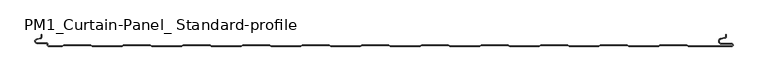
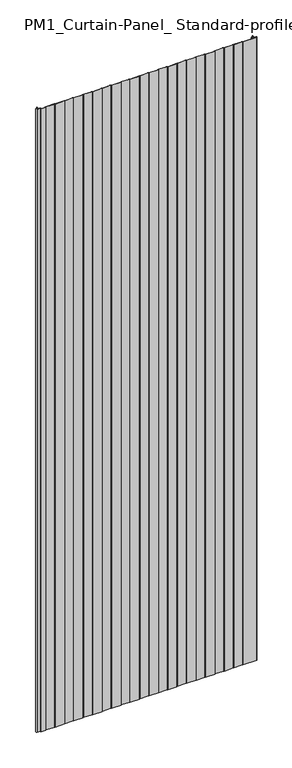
"""IFC4 building model written with IfcOpenShell, lengths in millimetres: plate geometry, PM1_Curtain-Panel_ Standard-profile : ACH_PM1_Acoustic-Sectioning-Panel_120M."""

from ifc_helpers import new_model, si_unit, frame, origin, place, context, project, spatial, polyline, circle_curve, source, transform, mapped, element, save
from ifc_brep_helpers import plane_surface, cylinder_surface, revolved_surface, advanced_brep


def pm1_curtain_panel_standard_profile_edf24548(model_context):
    return source(origin(), model_context, "Body", "AdvancedBrep", [
        advanced_brep(
        [(-562.4, -120.0, 3500.0), (-539.3999999, -120.0, 3500.0), (-536.8019223, -118.5, 3500.0), (-492.0019247, -118.5, 3500.0), (-489.4038471, -120.0, 3500.0), (-439.3999999, -120.0, 3500.0), (-436.8019223, -118.5, 3500.0), (-392.0019247, -118.5, 3500.0), (-389.4038471, -120.0, 3500.0), (-339.3999999, -120.0, 3500.0), (-336.8019223, -118.5, 3500.0), (-292.0019247, -118.5, 3500.0), (-289.4038471, -120.0, 3500.0), (-239.3999999, -120.0, 3500.0), (-236.8019223, -118.5, 3500.0), (-192.0019247, -118.5, 3500.0), (-189.4038471, -120.0, 3500.0), (-139.3999999, -120.0, 3500.0), (-136.8019223, -118.5, 3500.0), (-92.0019247, -118.5, 3500.0), (-89.4038471, -120.0, 3500.0), (-39.3999999, -120.0, 3500.0), (-36.8019223, -118.5, 3500.0), (7.9980753, -118.5, 3500.0), (10.5961529, -120.0, 3500.0), (60.6000001, -120.0, 3500.0), (63.1980777, -118.5, 3500.0), (107.9980753, -118.5, 3500.0), (110.5961529, -120.0, 3500.0), (160.6000001, -120.0, 3500.0), (163.1980777, -118.5, 3500.0), (207.9980753, -118.5, 3500.0), (210.5961529, -120.0, 3500.0), (260.6000001, -120.0, 3500.0), (263.1980777, -118.5, 3500.0), (307.9980753, -118.5, 3500.0), (310.5961529, -120.0, 3500.0), (360.6000001, -120.0, 3500.0), (363.1980777, -118.5, 3500.0), (407.9980753, -118.5, 3500.0), (410.5961529, -120.0, 3500.0), (460.6000001, -120.0, 3500.0), (463.1980777, -118.5, 3500.0), (507.9980753, -118.5, 3500.0), (510.5961529, -120.0, 3500.0), (583.1, -120.0, 3500.0), (585.6, -117.5, 3500.0), (583.1, -115.0, 3500.0), (566.1, -115.0, 3500.0), (565.4054075, -107.060769, 3500.0), (571.8514851, -105.924152, 3500.0), (574.0, -103.363652, 3500.0), (574.0, -100.0, 3500.0), (573.2, -100.0, 3500.0), (573.2, -103.363652, 3500.0), (571.7125666, -105.136306, 3500.0), (565.266489, -106.2729229, 3500.0), (566.1, -115.8, 3500.0), (583.1, -115.8, 3500.0), (583.1, -119.2, 3500.0), (510.8105122, -119.2, 3500.0), (508.2124346, -117.7, 3500.0), (462.9837184, -117.7, 3500.0), (460.3856408, -119.2, 3500.0), (410.8105122, -119.2, 3500.0), (408.2124346, -117.7, 3500.0), (362.9837184, -117.7, 3500.0), (360.3856408, -119.2, 3500.0), (310.8105122, -119.2, 3500.0), (308.2124346, -117.7, 3500.0), (262.9837184, -117.7, 3500.0), (260.3856408, -119.2, 3500.0), (210.8105122, -119.2, 3500.0), (208.2124346, -117.7, 3500.0), (162.9837184, -117.7, 3500.0), (160.3856408, -119.2, 3500.0), (110.8105122, -119.2, 3500.0), (108.2124346, -117.7, 3500.0), (62.9837184, -117.7, 3500.0), (60.3856408, -119.2, 3500.0), (10.8105122, -119.2, 3500.0), (8.2124346, -117.7, 3500.0), (-37.0162816, -117.7, 3500.0), (-39.6143592, -119.2, 3500.0), (-89.1894878, -119.2, 3500.0), (-91.7875654, -117.7, 3500.0), (-137.0162816, -117.7, 3500.0), (-139.6143592, -119.2, 3500.0), (-189.1894878, -119.2, 3500.0), (-191.7875654, -117.7, 3500.0), (-237.0162816, -117.7, 3500.0), (-239.6143592, -119.2, 3500.0), (-289.1894878, -119.2, 3500.0), (-291.7875654, -117.7, 3500.0), (-337.0162816, -117.7, 3500.0), (-339.6143592, -119.2, 3500.0), (-389.1894878, -119.2, 3500.0), (-391.7875654, -117.7, 3500.0), (-437.0162816, -117.7, 3500.0), (-439.6143592, -119.2, 3500.0), (-489.1894878, -119.2, 3500.0), (-491.7875654, -117.7, 3500.0), (-537.0162816, -117.7, 3500.0), (-539.6143592, -119.2, 3500.0), (-562.4, -119.2, 3500.0), (-563.6, -118.0, 3500.0), (-563.6, -116.6, 3500.0), (-566.4, -113.8, 3500.0), (-581.9, -113.8, 3500.0), (-582.529863, -108.2717638, 3500.0), (-576.370137, -106.849679, 3500.0), (-574.2, -104.121443, 3500.0), (-574.2, -100.0, 3500.0), (-575.0, -100.0, 3500.0), (-575.0, -104.121443, 3500.0), (-576.5500978, -106.0701831, 3500.0), (-582.7098239, -107.492268, 3500.0), (-581.9, -114.6, 3500.0), (-566.4, -114.6, 3500.0), (-564.4, -116.6, 3500.0), (-564.4, -118.0, 3500.0), (-562.4, -120.0, 0.0), (-564.4, -118.0, 0.0), (-564.4, -116.6, 0.0), (-566.4, -114.6, 0.0), (-581.9, -114.6, 0.0), (-582.7098239, -107.4922678, 0.0), (-576.5500979, -106.070183, 0.0), (-575.0, -104.121443, 0.0), (-575.0, -100.0, 0.0), (-574.2, -100.0, 0.0), (-574.2, -104.121443, 0.0), (-576.370137, -106.8496792, 0.0), (-582.529863, -108.271764, 0.0), (-581.9, -113.8, 0.0), (-566.4, -113.8, 0.0), (-563.6, -116.6, 0.0), (-563.6, -118.0, 0.0), (-562.4, -119.2, 0.0), (-539.6143592, -119.2, 0.0), (-537.0162816, -117.7, 0.0), (-491.7875654, -117.7, 0.0), (-489.1894878, -119.2, 0.0), (-439.6143592, -119.2, 0.0), (-437.0162816, -117.7, 0.0), (-391.7875654, -117.7, 0.0), (-389.1894878, -119.2, 0.0), (-339.6143592, -119.2, 0.0), (-337.0162816, -117.7, 0.0), (-291.7875654, -117.7, 0.0), (-289.1894878, -119.2, 0.0), (-239.6143592, -119.2, 0.0), (-237.0162816, -117.7, 0.0), (-191.7875654, -117.7, 0.0), (-189.1894878, -119.2, 0.0), (-139.6143592, -119.2, 0.0), (-137.0162816, -117.7, 0.0), (-91.7875654, -117.7, 0.0), (-89.1894878, -119.2, 0.0), (-39.6143592, -119.2, 0.0), (-37.0162816, -117.7, 0.0), (8.2124346, -117.7, 0.0), (10.8105122, -119.2, 0.0), (60.3856408, -119.2, 0.0), (62.9837184, -117.7, 0.0), (108.2124346, -117.7, 0.0), (110.8105122, -119.2, 0.0), (160.3856408, -119.2, 0.0), (162.9837184, -117.7, 0.0), (208.2124346, -117.7, 0.0), (210.8105122, -119.2, 0.0), (260.3856408, -119.2, 0.0), (262.9837184, -117.7, 0.0), (308.2124346, -117.7, 0.0), (310.8105122, -119.2, 0.0), (360.3856408, -119.2, 0.0), (362.9837184, -117.7, 0.0), (408.2124346, -117.7, 0.0), (410.8105122, -119.2, 0.0), (460.3856408, -119.2, 0.0), (462.9837184, -117.7, 0.0), (508.2124346, -117.7, 0.0), (510.8105122, -119.2, 0.0), (583.1, -119.2, 0.0), (583.1, -115.8, 0.0), (566.1, -115.8, 0.0), (565.266489, -106.2729227, 0.0), (571.7125666, -105.1363058, 0.0), (573.2, -103.363652, 0.0), (573.2, -100.0, 0.0), (574.0, -100.0, 0.0), (574.0, -103.363652, 0.0), (571.8514851, -105.9241522, 0.0), (565.4054075, -107.0607691, 0.0), (566.1, -115.0, 0.0), (583.1, -115.0, 0.0), (585.6, -117.5, 0.0), (583.1, -120.0, 0.0), (510.5961529, -120.0, 0.0), (507.9980753, -118.5, 0.0), (463.1980777, -118.5, 0.0), (460.6000001, -120.0, 0.0), (410.5961529, -120.0, 0.0), (407.9980753, -118.5, 0.0), (363.1980777, -118.5, 0.0), (360.6000001, -120.0, 0.0), (310.5961529, -120.0, 0.0), (307.9980753, -118.5, 0.0), (263.1980777, -118.5, 0.0), (260.6000001, -120.0, 0.0), (210.5961529, -120.0, 0.0), (207.9980753, -118.5, 0.0), (163.1980777, -118.5, 0.0), (160.6000001, -120.0, 0.0), (110.5961529, -120.0, 0.0), (107.9980753, -118.5, 0.0), (63.1980777, -118.5, 0.0), (60.6000001, -120.0, 0.0), (10.5961529, -120.0, 0.0), (7.9980753, -118.5, 0.0), (-36.8019223, -118.5, 0.0), (-39.3999999, -120.0, 0.0), (-89.4038471, -120.0, 0.0), (-92.0019247, -118.5, 0.0), (-136.8019223, -118.5, 0.0), (-139.3999999, -120.0, 0.0), (-189.4038471, -120.0, 0.0), (-192.0019247, -118.5, 0.0), (-236.8019223, -118.5, 0.0), (-239.3999999, -120.0, 0.0), (-289.4038471, -120.0, 0.0), (-292.0019247, -118.5, 0.0), (-336.8019223, -118.5, 0.0), (-339.3999999, -120.0, 0.0), (-389.4038471, -120.0, 0.0), (-392.0019247, -118.5, 0.0), (-436.8019223, -118.5, 0.0), (-439.3999999, -120.0, 0.0), (-489.4038471, -120.0, 0.0), (-492.0019247, -118.5, 0.0), (-536.8019223, -118.5, 0.0), (-539.3999999, -120.0, 0.0)],
        [
            (0, 1),
            (1, 2),
            (2, 3),
            (3, 4),
            (4, 5),
            (5, 6),
            (6, 7),
            (7, 8),
            (8, 9),
            (9, 10),
            (10, 11),
            (11, 12),
            (12, 13),
            (13, 14),
            (14, 15),
            (15, 16),
            (16, 17),
            (17, 18),
            (18, 19),
            (19, 20),
            (20, 21),
            (21, 22),
            (22, 23),
            (23, 24),
            (24, 25),
            (25, 26),
            (26, 27),
            (27, 28),
            (28, 29),
            (29, 30),
            (30, 31),
            (31, 32),
            (32, 33),
            (33, 34),
            (34, 35),
            (35, 36),
            (36, 37),
            (37, 38),
            (38, 39),
            (39, 40),
            (40, 41),
            (41, 42),
            (42, 43),
            (43, 44),
            (44, 45),
            (45, 46, circle_curve(frame((583.1, -117.5, 3500.0), z_axis=(0.0, 0.0, 1.0), x_axis=(1.0, 0.0, 0.0)), 2.5)),
            (46, 47, circle_curve(frame((583.1, -117.5, 3500.0), z_axis=(0.0, 0.0, 1.0), x_axis=(1.0, 0.0, 0.0)), 2.5)),
            (47, 48),
            (48, 49, circle_curve(frame((566.1, -111.0, 3500.0), z_axis=(0.0, 0.0, -1.0), x_axis=(1.0, 0.0, 0.0)), 4.0)),
            (49, 50),
            (50, 51, circle_curve(frame((571.4, -103.363652, 3500.0), z_axis=(0.0, 0.0, 1.0), x_axis=(1.0, 0.0, 0.0)), 2.6)),
            (51, 52),
            (52, 53),
            (53, 54),
            (54, 55, circle_curve(frame((571.4, -103.363652, 3500.0), z_axis=(0.0, 0.0, -1.0), x_axis=(1.0, 0.0, 0.0)), 1.8)),
            (55, 56),
            (56, 57, circle_curve(frame((566.1, -111.0, 3500.0), z_axis=(0.0, 0.0, 1.0), x_axis=(1.0, 0.0, 0.0)), 4.8)),
            (57, 58),
            (58, 59, circle_curve(frame((583.1, -117.5, 3500.0), z_axis=(0.0, 0.0, -1.0), x_axis=(1.0, 0.0, 0.0)), 1.7)),
            (59, 60),
            (60, 61),
            (61, 62),
            (62, 63),
            (63, 64),
            (64, 65),
            (65, 66),
            (66, 67),
            (67, 68),
            (68, 69),
            (69, 70),
            (70, 71),
            (71, 72),
            (72, 73),
            (73, 74),
            (74, 75),
            (75, 76),
            (76, 77),
            (77, 78),
            (78, 79),
            (79, 80),
            (80, 81),
            (81, 82),
            (82, 83),
            (83, 84),
            (84, 85),
            (85, 86),
            (86, 87),
            (87, 88),
            (88, 89),
            (89, 90),
            (90, 91),
            (91, 92),
            (92, 93),
            (93, 94),
            (94, 95),
            (95, 96),
            (96, 97),
            (97, 98),
            (98, 99),
            (99, 100),
            (100, 101),
            (101, 102),
            (102, 103),
            (103, 104),
            (104, 105, circle_curve(frame((-562.4, -118.0, 3500.0), z_axis=(0.0, 0.0, -1.0), x_axis=(1.0, 0.0, 0.0)), 1.2)),
            (105, 106),
            (106, 107, circle_curve(frame((-566.4, -116.6, 3500.0), z_axis=(0.0, 0.0, 1.0), x_axis=(1.0, 0.0, 0.0)), 2.8)),
            (107, 108),
            (108, 109, circle_curve(frame((-581.9, -111.0, 3500.0), z_axis=(0.0, 0.0, -1.0), x_axis=(1.0, 0.0, 0.0)), 2.8)),
            (109, 110),
            (110, 111, circle_curve(frame((-577.0, -104.121443, 3500.0), z_axis=(0.0, 0.0, 1.0), x_axis=(1.0, 0.0, 0.0)), 2.8)),
            (111, 112),
            (112, 113),
            (113, 114),
            (114, 115, circle_curve(frame((-577.0, -104.121443, 3500.0), z_axis=(0.0, 0.0, -1.0), x_axis=(1.0, 0.0, 0.0)), 2.0)),
            (115, 116),
            (116, 117, circle_curve(frame((-581.9, -111.0, 3500.0), z_axis=(0.0, 0.0, 1.0), x_axis=(1.0, 0.0, 0.0)), 3.6)),
            (117, 118),
            (118, 119, circle_curve(frame((-566.4, -116.6, 3500.0), z_axis=(0.0, 0.0, -1.0), x_axis=(1.0, 0.0, 0.0)), 2.0)),
            (119, 120),
            (120, 0, circle_curve(frame((-562.4, -118.0, 3500.0), z_axis=(0.0, 0.0, 1.0), x_axis=(1.0, 0.0, 0.0)), 2.0)),
            (121, 122, circle_curve(frame((-562.4, -118.0, 0.0), z_axis=(0.0, 0.0, -1.0), x_axis=(1.0, 0.0, 0.0)), 2.0)),
            (122, 123),
            (123, 124, circle_curve(frame((-566.4, -116.6, 0.0), z_axis=(0.0, 0.0, 1.0), x_axis=(1.0, 0.0, 0.0)), 2.0)),
            (124, 125),
            (125, 126, circle_curve(frame((-581.9, -111.0, 0.0), z_axis=(0.0, 0.0, -1.0), x_axis=(1.0, 0.0, 0.0)), 3.6)),
            (126, 127),
            (127, 128, circle_curve(frame((-577.0, -104.121443, 0.0), z_axis=(0.0, 0.0, 1.0), x_axis=(1.0, 0.0, 0.0)), 2.0)),
            (128, 129),
            (129, 130),
            (130, 131),
            (131, 132, circle_curve(frame((-577.0, -104.121443, 0.0), z_axis=(0.0, 0.0, -1.0), x_axis=(1.0, 0.0, 0.0)), 2.8)),
            (132, 133),
            (133, 134, circle_curve(frame((-581.9, -111.0, 0.0), z_axis=(0.0, 0.0, 1.0), x_axis=(1.0, 0.0, 0.0)), 2.8)),
            (134, 135),
            (135, 136, circle_curve(frame((-566.4, -116.6, 0.0), z_axis=(0.0, 0.0, -1.0), x_axis=(1.0, 0.0, 0.0)), 2.8)),
            (136, 137),
            (137, 138, circle_curve(frame((-562.4, -118.0, 0.0), z_axis=(0.0, 0.0, 1.0), x_axis=(1.0, 0.0, 0.0)), 1.2)),
            (138, 139),
            (139, 140),
            (140, 141),
            (141, 142),
            (142, 143),
            (143, 144),
            (144, 145),
            (145, 146),
            (146, 147),
            (147, 148),
            (148, 149),
            (149, 150),
            (150, 151),
            (151, 152),
            (152, 153),
            (153, 154),
            (154, 155),
            (155, 156),
            (156, 157),
            (157, 158),
            (158, 159),
            (159, 160),
            (160, 161),
            (161, 162),
            (162, 163),
            (163, 164),
            (164, 165),
            (165, 166),
            (166, 167),
            (167, 168),
            (168, 169),
            (169, 170),
            (170, 171),
            (171, 172),
            (172, 173),
            (173, 174),
            (174, 175),
            (175, 176),
            (176, 177),
            (177, 178),
            (178, 179),
            (179, 180),
            (180, 181),
            (181, 182),
            (182, 183),
            (183, 184, circle_curve(frame((583.1, -117.5, 0.0), z_axis=(0.0, 0.0, 1.0), x_axis=(1.0, 0.0, 0.0)), 1.7)),
            (184, 185),
            (185, 186, circle_curve(frame((566.1, -111.0, 0.0), z_axis=(0.0, 0.0, -1.0), x_axis=(1.0, 0.0, 0.0)), 4.8)),
            (186, 187),
            (187, 188, circle_curve(frame((571.4, -103.363652, 0.0), z_axis=(0.0, 0.0, 1.0), x_axis=(1.0, 0.0, 0.0)), 1.8)),
            (188, 189),
            (189, 190),
            (190, 191),
            (191, 192, circle_curve(frame((571.4, -103.363652, 0.0), z_axis=(0.0, 0.0, -1.0), x_axis=(1.0, 0.0, 0.0)), 2.6)),
            (192, 193),
            (193, 194, circle_curve(frame((566.1, -111.0, 0.0), z_axis=(0.0, 0.0, 1.0), x_axis=(1.0, 0.0, 0.0)), 4.0)),
            (194, 195),
            (195, 196, circle_curve(frame((583.1, -117.5, 0.0), z_axis=(0.0, 0.0, -1.0), x_axis=(1.0, 0.0, 0.0)), 2.5)),
            (196, 197, circle_curve(frame((583.1, -117.5, 0.0), z_axis=(0.0, 0.0, -1.0), x_axis=(1.0, 0.0, 0.0)), 2.5)),
            (197, 198),
            (198, 199),
            (199, 200),
            (200, 201),
            (201, 202),
            (202, 203),
            (203, 204),
            (204, 205),
            (205, 206),
            (206, 207),
            (207, 208),
            (208, 209),
            (209, 210),
            (210, 211),
            (211, 212),
            (212, 213),
            (213, 214),
            (214, 215),
            (215, 216),
            (216, 217),
            (217, 218),
            (218, 219),
            (219, 220),
            (220, 221),
            (221, 222),
            (222, 223),
            (223, 224),
            (224, 225),
            (225, 226),
            (226, 227),
            (227, 228),
            (228, 229),
            (229, 230),
            (230, 231),
            (231, 232),
            (232, 233),
            (233, 234),
            (234, 235),
            (235, 236),
            (236, 237),
            (237, 238),
            (238, 239),
            (239, 240),
            (240, 241),
            (241, 121),
            (0, 121),
            (241, 1),
            (240, 2),
            (239, 3),
            (238, 4),
            (237, 5),
            (236, 6),
            (235, 7),
            (234, 8),
            (233, 9),
            (232, 10),
            (231, 11),
            (230, 12),
            (229, 13),
            (228, 14),
            (227, 15),
            (226, 16),
            (225, 17),
            (224, 18),
            (223, 19),
            (222, 20),
            (221, 21),
            (220, 22),
            (219, 23),
            (218, 24),
            (217, 25),
            (216, 26),
            (215, 27),
            (214, 28),
            (213, 29),
            (212, 30),
            (211, 31),
            (210, 32),
            (209, 33),
            (208, 34),
            (207, 35),
            (206, 36),
            (205, 37),
            (204, 38),
            (203, 39),
            (202, 40),
            (201, 41),
            (200, 42),
            (199, 43),
            (198, 44),
            (197, 45),
            (195, 47),
            (194, 48),
            (193, 49),
            (192, 50),
            (191, 51),
            (190, 52),
            (189, 53),
            (188, 54),
            (187, 55),
            (186, 56),
            (185, 57),
            (184, 58),
            (183, 59),
            (182, 60),
            (181, 61),
            (180, 62),
            (179, 63),
            (178, 64),
            (177, 65),
            (176, 66),
            (175, 67),
            (174, 68),
            (173, 69),
            (172, 70),
            (171, 71),
            (170, 72),
            (169, 73),
            (168, 74),
            (167, 75),
            (166, 76),
            (165, 77),
            (164, 78),
            (163, 79),
            (162, 80),
            (161, 81),
            (160, 82),
            (159, 83),
            (158, 84),
            (157, 85),
            (156, 86),
            (155, 87),
            (154, 88),
            (153, 89),
            (152, 90),
            (151, 91),
            (150, 92),
            (149, 93),
            (148, 94),
            (147, 95),
            (146, 96),
            (145, 97),
            (144, 98),
            (143, 99),
            (142, 100),
            (141, 101),
            (140, 102),
            (139, 103),
            (138, 104),
            (137, 105),
            (136, 106),
            (135, 107),
            (134, 108),
            (133, 109),
            (132, 110),
            (131, 111),
            (130, 112),
            (129, 113),
            (128, 114),
            (127, 115),
            (126, 116),
            (125, 117),
            (124, 118),
            (123, 119),
            (122, 120),
        ],
        [
            plane_surface(frame((-575.0, -120.0, 3500.0), z_axis=(0.0, 0.0, 1.0), x_axis=(0.0, 1.0, 0.0))),
            plane_surface(frame((-575.0, -120.0, 0.0), z_axis=(0.0, 0.0, -1.0), x_axis=(0.0, 1.0, 0.0))),
            plane_surface(frame((-562.4, -120.0, 3500.0), z_axis=(0.0, -1.0, 0.0), x_axis=(0.0, 0.0, -1.0))),
            plane_surface(frame((-539.3999999, -120.0, 3500.0), z_axis=(0.49999979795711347, -0.8660255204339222, 0.0), x_axis=(0.0, 0.0, -1.0))),
            plane_surface(frame((-536.8019223, -118.5, 3500.0), z_axis=(0.0, -1.0, 0.0), x_axis=(0.0, 0.0, -1.0))),
            plane_surface(frame((-492.0019247, -118.5, 3500.0), z_axis=(-0.49999979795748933, -0.8660255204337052, 0.0), x_axis=(0.0, 0.0, -1.0))),
            plane_surface(frame((-489.4038471, -120.0, 3500.0), z_axis=(0.0, -1.0, 0.0), x_axis=(0.0, 0.0, -1.0))),
            plane_surface(frame((-439.3999999, -120.0, 3500.0), z_axis=(0.49999979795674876, -0.8660255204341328, 0.0), x_axis=(0.0, 0.0, -1.0))),
            plane_surface(frame((-436.8019223, -118.5, 3500.0), z_axis=(0.0, -1.0, 0.0), x_axis=(0.0, 0.0, -1.0))),
            plane_surface(frame((-392.0019247, -118.5, 3500.0), z_axis=(-0.4999997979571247, -0.8660255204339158, 0.0), x_axis=(0.0, 0.0, -1.0))),
            plane_surface(frame((-389.4038471, -120.0, 3500.0), z_axis=(0.0, -1.0, 0.0), x_axis=(0.0, 0.0, -1.0))),
            plane_surface(frame((-339.3999999, -120.0, 3500.0), z_axis=(0.49999979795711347, -0.8660255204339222, 0.0), x_axis=(0.0, 0.0, -1.0))),
            plane_surface(frame((-336.8019223, -118.5, 3500.0), z_axis=(0.0, -1.0, 0.0), x_axis=(0.0, 0.0, -1.0))),
            plane_surface(frame((-292.0019247, -118.5, 3500.0), z_axis=(-0.4999997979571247, -0.8660255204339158, 0.0), x_axis=(0.0, 0.0, -1.0))),
            plane_surface(frame((-289.4038471, -120.0, 3500.0), z_axis=(0.0, -1.0, 0.0), x_axis=(0.0, 0.0, -1.0))),
            plane_surface(frame((-239.3999999, -120.0, 3500.0), z_axis=(0.49999979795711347, -0.8660255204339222, 0.0), x_axis=(0.0, 0.0, -1.0))),
            plane_surface(frame((-236.8019223, -118.5, 3500.0), z_axis=(0.0, -1.0, 0.0), x_axis=(0.0, 0.0, -1.0))),
            plane_surface(frame((-192.0019247, -118.5, 3500.0), z_axis=(-0.49999979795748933, -0.8660255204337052, 0.0), x_axis=(0.0, 0.0, -1.0))),
            plane_surface(frame((-189.4038471, -120.0, 3500.0), z_axis=(0.0, -1.0, 0.0), x_axis=(0.0, 0.0, -1.0))),
            plane_surface(frame((-139.3999999, -120.0, 3500.0), z_axis=(0.49999979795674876, -0.8660255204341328, 0.0), x_axis=(0.0, 0.0, -1.0))),
            plane_surface(frame((-136.8019223, -118.5, 3500.0), z_axis=(0.0, -1.0, 0.0), x_axis=(0.0, 0.0, -1.0))),
            plane_surface(frame((-92.0019247, -118.5, 3500.0), z_axis=(-0.4999997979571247, -0.8660255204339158, 0.0), x_axis=(0.0, 0.0, -1.0))),
            plane_surface(frame((-89.4038471, -120.0, 3500.0), z_axis=(0.0, -1.0, 0.0), x_axis=(0.0, 0.0, -1.0))),
            plane_surface(frame((-39.3999999, -120.0, 3500.0), z_axis=(0.49999979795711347, -0.8660255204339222, 0.0), x_axis=(0.0, 0.0, -1.0))),
            plane_surface(frame((-36.8019223, -118.5, 3500.0), z_axis=(0.0, -1.0, 0.0), x_axis=(0.0, 0.0, -1.0))),
            plane_surface(frame((7.9980753, -118.5, 3500.0), z_axis=(-0.4999997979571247, -0.8660255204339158, 0.0), x_axis=(0.0, 0.0, -1.0))),
            plane_surface(frame((10.5961529, -120.0, 3500.0), z_axis=(0.0, -1.0, 0.0), x_axis=(0.0, 0.0, -1.0))),
            plane_surface(frame((60.6000001, -120.0, 3500.0), z_axis=(0.49999979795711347, -0.8660255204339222, 0.0), x_axis=(0.0, 0.0, -1.0))),
            plane_surface(frame((63.1980777, -118.5, 3500.0), z_axis=(0.0, -1.0, 0.0), x_axis=(0.0, 0.0, -1.0))),
            plane_surface(frame((107.9980753, -118.5, 3500.0), z_axis=(-0.49999979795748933, -0.8660255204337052, 0.0), x_axis=(0.0, 0.0, -1.0))),
            plane_surface(frame((110.5961529, -120.0, 3500.0), z_axis=(0.0, -1.0, 0.0), x_axis=(0.0, 0.0, -1.0))),
            plane_surface(frame((160.6000001, -120.0, 3500.0), z_axis=(0.49999979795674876, -0.8660255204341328, 0.0), x_axis=(0.0, 0.0, -1.0))),
            plane_surface(frame((163.1980777, -118.5, 3500.0), z_axis=(0.0, -1.0, 0.0), x_axis=(0.0, 0.0, -1.0))),
            plane_surface(frame((207.9980753, -118.5, 3500.0), z_axis=(-0.4999997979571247, -0.8660255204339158, 0.0), x_axis=(0.0, 0.0, -1.0))),
            plane_surface(frame((210.5961529, -120.0, 3500.0), z_axis=(0.0, -1.0, 0.0), x_axis=(0.0, 0.0, -1.0))),
            plane_surface(frame((260.6000001, -120.0, 3500.0), z_axis=(0.49999979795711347, -0.8660255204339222, 0.0), x_axis=(0.0, 0.0, -1.0))),
            plane_surface(frame((263.1980777, -118.5, 3500.0), z_axis=(0.0, -1.0, 0.0), x_axis=(0.0, 0.0, -1.0))),
            plane_surface(frame((307.9980753, -118.5, 3500.0), z_axis=(-0.4999997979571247, -0.8660255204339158, 0.0), x_axis=(0.0, 0.0, -1.0))),
            plane_surface(frame((310.5961529, -120.0, 3500.0), z_axis=(0.0, -1.0, 0.0), x_axis=(0.0, 0.0, -1.0))),
            plane_surface(frame((360.6000001, -120.0, 3500.0), z_axis=(0.49999979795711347, -0.8660255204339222, 0.0), x_axis=(0.0, 0.0, -1.0))),
            plane_surface(frame((363.1980777, -118.5, 3500.0), z_axis=(0.0, -1.0, 0.0), x_axis=(0.0, 0.0, -1.0))),
            plane_surface(frame((407.9980753, -118.5, 3500.0), z_axis=(-0.49999979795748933, -0.8660255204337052, 0.0), x_axis=(0.0, 0.0, -1.0))),
            plane_surface(frame((410.5961529, -120.0, 3500.0), z_axis=(0.0, -1.0, 0.0), x_axis=(0.0, 0.0, -1.0))),
            plane_surface(frame((460.6000001, -120.0, 3500.0), z_axis=(0.49999979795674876, -0.8660255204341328, 0.0), x_axis=(0.0, 0.0, -1.0))),
            plane_surface(frame((463.1980777, -118.5, 3500.0), z_axis=(0.0, -1.0, 0.0), x_axis=(0.0, 0.0, -1.0))),
            plane_surface(frame((507.9980753, -118.5, 3500.0), z_axis=(-0.4999997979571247, -0.8660255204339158, 0.0), x_axis=(0.0, 0.0, -1.0))),
            plane_surface(frame((560.890897, -120.0, 3500.0), z_axis=(0.0, -1.0, 0.0), x_axis=(0.0, 0.0, -1.0))),
            cylinder_surface(frame((583.1, -117.5, 3500.0), z_axis=(0.0, 0.0, 1.0), x_axis=(1.0, 0.0, 0.0)), 2.5),
            plane_surface(frame((583.1, -115.0, 3500.0), z_axis=(0.0, 1.0, 0.0), x_axis=(0.0, 0.0, -1.0))),
            revolved_surface(polyline([(570.1, -111.0, 0.0), (570.1, -111.0, 3500.0)]), (566.1, -111.0, 3500.0), (0.0, 0.0, -1.0)),
            plane_surface(frame((565.4054075, -107.0607691, 3500.0), z_axis=(0.17364813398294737, -0.9848077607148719, 0.0), x_axis=(0.0, 0.0, -1.0))),
            cylinder_surface(frame((571.4, -103.363652, 3500.0), z_axis=(0.0, 0.0, 1.0), x_axis=(1.0, 0.0, 0.0)), 2.6),
            plane_surface(frame((574.0, -103.363652, 3500.0), z_axis=(1.0, 0.0, 0.0), x_axis=(0.0, 0.0, -1.0))),
            plane_surface(frame((574.0, -100.0, 3500.0), z_axis=(0.0, 1.0, 0.0), x_axis=(0.0, 0.0, -1.0))),
            plane_surface(frame((573.2, -100.0, 3500.0), z_axis=(-1.0, 0.0, 0.0), x_axis=(0.0, 0.0, -1.0))),
            revolved_surface(polyline([(573.1999999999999, -103.363652, 0.0), (573.1999999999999, -103.363652, 3500.0)]), (571.4, -103.363652, 3500.0), (0.0, 0.0, -1.0)),
            plane_surface(frame((571.7125666, -105.1363058, 3500.0), z_axis=(-0.17364813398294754, 0.9848077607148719, 0.0), x_axis=(0.0, 0.0, -1.0))),
            cylinder_surface(frame((566.1, -111.0, 3500.0), z_axis=(0.0, 0.0, 1.0), x_axis=(1.0, 0.0, 0.0)), 4.8),
            plane_surface(frame((566.1, -115.8, 3500.0), z_axis=(0.0, -1.0, 0.0), x_axis=(0.0, 0.0, -1.0))),
            revolved_surface(polyline([(584.8000000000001, -117.5, 0.0), (584.8000000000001, -117.5, 3500.0)]), (583.1, -117.5, 3500.0), (0.0, 0.0, -1.0)),
            plane_surface(frame((560.890897, -119.2, 3500.0), z_axis=(0.0, 1.0, 0.0), x_axis=(0.0, 0.0, -1.0))),
            plane_surface(frame((510.8105122, -119.2, 3500.0), z_axis=(0.49999979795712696, 0.8660255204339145, 0.0), x_axis=(0.0, 0.0, -1.0))),
            plane_surface(frame((508.2124346, -117.7, 3500.0), z_axis=(0.0, 1.0, 0.0), x_axis=(0.0, 0.0, -1.0))),
            plane_surface(frame((462.9837184, -117.7, 3500.0), z_axis=(-0.4999997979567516, 0.8660255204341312, 0.0), x_axis=(0.0, 0.0, -1.0))),
            plane_surface(frame((460.3856408, -119.2, 3500.0), z_axis=(0.0, 1.0, 0.0), x_axis=(0.0, 0.0, -1.0))),
            plane_surface(frame((410.8105122, -119.2, 3500.0), z_axis=(0.4999997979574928, 0.8660255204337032, 0.0), x_axis=(0.0, 0.0, -1.0))),
            plane_surface(frame((408.2124346, -117.7, 3500.0), z_axis=(0.0, 1.0, 0.0), x_axis=(0.0, 0.0, -1.0))),
            plane_surface(frame((362.9837184, -117.7, 3500.0), z_axis=(-0.49999979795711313, 0.8660255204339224, 0.0), x_axis=(0.0, 0.0, -1.0))),
            plane_surface(frame((360.3856408, -119.2, 3500.0), z_axis=(0.0, 1.0, 0.0), x_axis=(0.0, 0.0, -1.0))),
            plane_surface(frame((310.8105122, -119.2, 3500.0), z_axis=(0.4999997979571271, 0.8660255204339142, 0.0), x_axis=(0.0, 0.0, -1.0))),
            plane_surface(frame((308.2124346, -117.7, 3500.0), z_axis=(0.0, 1.0, 0.0), x_axis=(0.0, 0.0, -1.0))),
            plane_surface(frame((262.9837184, -117.7, 3500.0), z_axis=(-0.49999979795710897, 0.8660255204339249, 0.0), x_axis=(0.0, 0.0, -1.0))),
            plane_surface(frame((260.3856408, -119.2, 3500.0), z_axis=(0.0, 1.0, 0.0), x_axis=(0.0, 0.0, -1.0))),
            plane_surface(frame((210.8105122, -119.2, 3500.0), z_axis=(0.4999997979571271, 0.8660255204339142, 0.0), x_axis=(0.0, 0.0, -1.0))),
            plane_surface(frame((208.2124346, -117.7, 3500.0), z_axis=(0.0, 1.0, 0.0), x_axis=(0.0, 0.0, -1.0))),
            plane_surface(frame((162.9837184, -117.7, 3500.0), z_axis=(-0.4999997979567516, 0.8660255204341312, 0.0), x_axis=(0.0, 0.0, -1.0))),
            plane_surface(frame((160.3856408, -119.2, 3500.0), z_axis=(0.0, 1.0, 0.0), x_axis=(0.0, 0.0, -1.0))),
            plane_surface(frame((110.8105122, -119.2, 3500.0), z_axis=(0.49999979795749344, 0.8660255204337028, 0.0), x_axis=(0.0, 0.0, -1.0))),
            plane_surface(frame((108.2124346, -117.7, 3500.0), z_axis=(0.0, 1.0, 0.0), x_axis=(0.0, 0.0, -1.0))),
            plane_surface(frame((62.9837184, -117.7, 3500.0), z_axis=(-0.49999979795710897, 0.8660255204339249, 0.0), x_axis=(0.0, 0.0, -1.0))),
            plane_surface(frame((60.3856408, -119.2, 3500.0), z_axis=(0.0, 1.0, 0.0), x_axis=(0.0, 0.0, -1.0))),
            plane_surface(frame((10.8105122, -119.2, 3500.0), z_axis=(0.4999997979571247, 0.8660255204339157, 0.0), x_axis=(0.0, 0.0, -1.0))),
            plane_surface(frame((8.2124346, -117.7, 3500.0), z_axis=(0.0, 1.0, 0.0), x_axis=(0.0, 0.0, -1.0))),
            plane_surface(frame((-37.0162816, -117.7, 3500.0), z_axis=(-0.49999979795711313, 0.8660255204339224, 0.0), x_axis=(0.0, 0.0, -1.0))),
            plane_surface(frame((-39.6143592, -119.2, 3500.0), z_axis=(0.0, 1.0, 0.0), x_axis=(0.0, 0.0, -1.0))),
            plane_surface(frame((-89.1894878, -119.2, 3500.0), z_axis=(0.4999997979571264, 0.8660255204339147, 0.0), x_axis=(0.0, 0.0, -1.0))),
            plane_surface(frame((-91.7875654, -117.7, 3500.0), z_axis=(0.0, 1.0, 0.0), x_axis=(0.0, 0.0, -1.0))),
            plane_surface(frame((-137.0162816, -117.7, 3500.0), z_axis=(-0.49999979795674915, 0.8660255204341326, 0.0), x_axis=(0.0, 0.0, -1.0))),
            plane_surface(frame((-139.6143592, -119.2, 3500.0), z_axis=(0.0, 1.0, 0.0), x_axis=(0.0, 0.0, -1.0))),
            plane_surface(frame((-189.1894878, -119.2, 3500.0), z_axis=(0.49999979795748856, 0.8660255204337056, 0.0), x_axis=(0.0, 0.0, -1.0))),
            plane_surface(frame((-191.7875654, -117.7, 3500.0), z_axis=(0.0, 1.0, 0.0), x_axis=(0.0, 0.0, -1.0))),
            plane_surface(frame((-237.0162816, -117.7, 3500.0), z_axis=(-0.4999997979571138, 0.866025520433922, 0.0), x_axis=(0.0, 0.0, -1.0))),
            plane_surface(frame((-239.6143592, -119.2, 3500.0), z_axis=(0.0, 1.0, 0.0), x_axis=(0.0, 0.0, -1.0))),
            plane_surface(frame((-289.1894878, -119.2, 3500.0), z_axis=(0.49999979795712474, 0.8660255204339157, 0.0), x_axis=(0.0, 0.0, -1.0))),
            plane_surface(frame((-291.7875654, -117.7, 3500.0), z_axis=(0.0, 1.0, 0.0), x_axis=(0.0, 0.0, -1.0))),
            plane_surface(frame((-337.0162816, -117.7, 3500.0), z_axis=(-0.49999979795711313, 0.8660255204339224, 0.0), x_axis=(0.0, 0.0, -1.0))),
            plane_surface(frame((-339.6143592, -119.2, 3500.0), z_axis=(0.0, 1.0, 0.0), x_axis=(0.0, 0.0, -1.0))),
            plane_surface(frame((-389.1894878, -119.2, 3500.0), z_axis=(0.49999979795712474, 0.8660255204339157, 0.0), x_axis=(0.0, 0.0, -1.0))),
            plane_surface(frame((-391.7875654, -117.7, 3500.0), z_axis=(0.0, 1.0, 0.0), x_axis=(0.0, 0.0, -1.0))),
            plane_surface(frame((-437.0162816, -117.7, 3500.0), z_axis=(-0.49999979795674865, 0.8660255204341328, 0.0), x_axis=(0.0, 0.0, -1.0))),
            plane_surface(frame((-439.6143592, -119.2, 3500.0), z_axis=(0.0, 1.0, 0.0), x_axis=(0.0, 0.0, -1.0))),
            plane_surface(frame((-489.1894878, -119.2, 3500.0), z_axis=(0.49999979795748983, 0.866025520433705, 0.0), x_axis=(0.0, 0.0, -1.0))),
            plane_surface(frame((-491.7875654, -117.7, 3500.0), z_axis=(0.0, 1.0, 0.0), x_axis=(0.0, 0.0, -1.0))),
            plane_surface(frame((-537.0162816, -117.7, 3500.0), z_axis=(-0.49999979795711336, 0.8660255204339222, 0.0), x_axis=(0.0, 0.0, -1.0))),
            plane_surface(frame((-539.6143592, -119.2, 3500.0), z_axis=(0.0, 1.0, 0.0), x_axis=(0.0, 0.0, -1.0))),
            revolved_surface(polyline([(-561.1999999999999, -118.0, 0.0), (-561.1999999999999, -118.0, 3500.0)]), (-562.4, -118.0, 3500.0), (0.0, 0.0, -1.0)),
            plane_surface(frame((-563.6, -118.0, 3500.0), z_axis=(1.0, 0.0, 0.0), x_axis=(0.0, 0.0, -1.0))),
            cylinder_surface(frame((-566.4, -116.6, 3500.0), z_axis=(0.0, 0.0, 1.0), x_axis=(1.0, 0.0, 0.0)), 2.8),
            plane_surface(frame((-566.4, -113.8, 3500.0), z_axis=(0.0, 1.0, 0.0), x_axis=(0.0, 0.0, -1.0))),
            revolved_surface(polyline([(-579.1, -111.0, 0.0), (-579.1, -111.0, 3500.0)]), (-581.9, -111.0, 3500.0), (0.0, 0.0, -1.0)),
            plane_surface(frame((-582.529863, -108.271764, 3500.0), z_axis=(0.2249510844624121, -0.9743700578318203, 0.0), x_axis=(0.0, 0.0, -1.0))),
            cylinder_surface(frame((-577.0, -104.121443, 3500.0), z_axis=(0.0, 0.0, 1.0), x_axis=(1.0, 0.0, 0.0)), 2.8),
            plane_surface(frame((-574.2, -104.121443, 3500.0), z_axis=(1.0, 0.0, 0.0), x_axis=(0.0, 0.0, -1.0))),
            plane_surface(frame((-574.2, -100.0, 3500.0), z_axis=(0.0, 1.0, 0.0), x_axis=(0.0, 0.0, -1.0))),
            plane_surface(frame((-575.0, -100.0, 3500.0), z_axis=(-1.0, 0.0, 0.0), x_axis=(0.0, 0.0, -1.0))),
            revolved_surface(polyline([(-575.0, -104.121443, 0.0), (-575.0, -104.121443, 3500.0)]), (-577.0, -104.121443, 3500.0), (0.0, 0.0, -1.0)),
            plane_surface(frame((-576.5500979, -106.070183, 3500.0), z_axis=(-0.22495108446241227, 0.9743700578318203, 0.0), x_axis=(0.0, 0.0, -1.0))),
            cylinder_surface(frame((-581.9, -111.0, 3500.0), z_axis=(0.0, 0.0, 1.0), x_axis=(1.0, 0.0, 0.0)), 3.6),
            plane_surface(frame((-581.9, -114.6, 3500.0), z_axis=(0.0, -1.0, 0.0), x_axis=(0.0, 0.0, -1.0))),
            revolved_surface(polyline([(-564.4, -116.6, 0.0), (-564.4, -116.6, 3500.0)]), (-566.4, -116.6, 3500.0), (0.0, 0.0, -1.0)),
            plane_surface(frame((-564.4, -116.6, 3500.0), z_axis=(-1.0, 0.0, 0.0), x_axis=(0.0, 0.0, -1.0))),
            cylinder_surface(frame((-562.4, -118.0, 3500.0), z_axis=(0.0, 0.0, 1.0), x_axis=(1.0, 0.0, 0.0)), 2.0),
        ],
        [
            (0, [[1, 2, 3, 4, 5, 6, 7, 8, 9, 10, 11, 12, 13, 14, 15, 16, 17, 18, 19, 20, 21, 22, 23, 24, 25, 26, 27, 28, 29, 30, 31, 32, 33, 34, 35, 36, 37, 38, 39, 40, 41, 42, 43, 44, 45, 46, 47, 48, 49, 50, 51, 52, 53, 54, 55, 56, 57, 58, 59, 60, 61, 62, 63, 64, 65, 66, 67, 68, 69, 70, 71, 72, 73, 74, 75, 76, 77, 78, 79, 80, 81, 82, 83, 84, 85, 86, 87, 88, 89, 90, 91, 92, 93, 94, 95, 96, 97, 98, 99, 100, 101, 102, 103, 104, 105, 106, 107, 108, 109, 110, 111, 112, 113, 114, 115, 116, 117, 118, 119, 120, 121]]),
            (1, [[122, 123, 124, 125, 126, 127, 128, 129, 130, 131, 132, 133, 134, 135, 136, 137, 138, 139, 140, 141, 142, 143, 144, 145, 146, 147, 148, 149, 150, 151, 152, 153, 154, 155, 156, 157, 158, 159, 160, 161, 162, 163, 164, 165, 166, 167, 168, 169, 170, 171, 172, 173, 174, 175, 176, 177, 178, 179, 180, 181, 182, 183, 184, 185, 186, 187, 188, 189, 190, 191, 192, 193, 194, 195, 196, 197, 198, 199, 200, 201, 202, 203, 204, 205, 206, 207, 208, 209, 210, 211, 212, 213, 214, 215, 216, 217, 218, 219, 220, 221, 222, 223, 224, 225, 226, 227, 228, 229, 230, 231, 232, 233, 234, 235, 236, 237, 238, 239, 240, 241, 242]]),
            (2, [[-1, 243, -242, 244]]),
            (3, [[-2, -244, -241, 245]]),
            (4, [[-3, -245, -240, 246]]),
            (5, [[-4, -246, -239, 247]]),
            (6, [[-5, -247, -238, 248]]),
            (7, [[-6, -248, -237, 249]]),
            (8, [[-7, -249, -236, 250]]),
            (9, [[-8, -250, -235, 251]]),
            (10, [[-9, -251, -234, 252]]),
            (11, [[-10, -252, -233, 253]]),
            (12, [[-11, -253, -232, 254]]),
            (13, [[-12, -254, -231, 255]]),
            (14, [[-13, -255, -230, 256]]),
            (15, [[-14, -256, -229, 257]]),
            (16, [[-15, -257, -228, 258]]),
            (17, [[-16, -258, -227, 259]]),
            (18, [[-17, -259, -226, 260]]),
            (19, [[-18, -260, -225, 261]]),
            (20, [[-19, -261, -224, 262]]),
            (21, [[-20, -262, -223, 263]]),
            (22, [[-21, -263, -222, 264]]),
            (23, [[-22, -264, -221, 265]]),
            (24, [[-23, -265, -220, 266]]),
            (25, [[-24, -266, -219, 267]]),
            (26, [[-25, -267, -218, 268]]),
            (27, [[-26, -268, -217, 269]]),
            (28, [[-27, -269, -216, 270]]),
            (29, [[-28, -270, -215, 271]]),
            (30, [[-29, -271, -214, 272]]),
            (31, [[-30, -272, -213, 273]]),
            (32, [[-31, -273, -212, 274]]),
            (33, [[-32, -274, -211, 275]]),
            (34, [[-33, -275, -210, 276]]),
            (35, [[-34, -276, -209, 277]]),
            (36, [[-35, -277, -208, 278]]),
            (37, [[-36, -278, -207, 279]]),
            (38, [[-37, -279, -206, 280]]),
            (39, [[-38, -280, -205, 281]]),
            (40, [[-39, -281, -204, 282]]),
            (41, [[-40, -282, -203, 283]]),
            (42, [[-41, -283, -202, 284]]),
            (43, [[-42, -284, -201, 285]]),
            (44, [[-43, -285, -200, 286]]),
            (45, [[-44, -286, -199, 287]]),
            (46, [[-45, -287, -198, 288]]),
            (47, [[-288, -197, -196, 289, -47, -46]]),
            (48, [[-48, -289, -195, 290]]),
            (49, [[-49, -290, -194, 291]]),
            (50, [[-50, -291, -193, 292]]),
            (51, [[-51, -292, -192, 293]]),
            (52, [[-52, -293, -191, 294]]),
            (53, [[-53, -294, -190, 295]]),
            (54, [[-54, -295, -189, 296]]),
            (55, [[-55, -296, -188, 297]]),
            (56, [[-56, -297, -187, 298]]),
            (57, [[-57, -298, -186, 299]]),
            (58, [[-58, -299, -185, 300]]),
            (59, [[-59, -300, -184, 301]]),
            (60, [[-60, -301, -183, 302]]),
            (61, [[-61, -302, -182, 303]]),
            (62, [[-62, -303, -181, 304]]),
            (63, [[-63, -304, -180, 305]]),
            (64, [[-64, -305, -179, 306]]),
            (65, [[-65, -306, -178, 307]]),
            (66, [[-66, -307, -177, 308]]),
            (67, [[-67, -308, -176, 309]]),
            (68, [[-68, -309, -175, 310]]),
            (69, [[-69, -310, -174, 311]]),
            (70, [[-70, -311, -173, 312]]),
            (71, [[-71, -312, -172, 313]]),
            (72, [[-72, -313, -171, 314]]),
            (73, [[-73, -314, -170, 315]]),
            (74, [[-74, -315, -169, 316]]),
            (75, [[-75, -316, -168, 317]]),
            (76, [[-76, -317, -167, 318]]),
            (77, [[-77, -318, -166, 319]]),
            (78, [[-78, -319, -165, 320]]),
            (79, [[-79, -320, -164, 321]]),
            (80, [[-80, -321, -163, 322]]),
            (81, [[-81, -322, -162, 323]]),
            (82, [[-82, -323, -161, 324]]),
            (83, [[-83, -324, -160, 325]]),
            (84, [[-84, -325, -159, 326]]),
            (85, [[-85, -326, -158, 327]]),
            (86, [[-86, -327, -157, 328]]),
            (87, [[-87, -328, -156, 329]]),
            (88, [[-88, -329, -155, 330]]),
            (89, [[-89, -330, -154, 331]]),
            (90, [[-90, -331, -153, 332]]),
            (91, [[-91, -332, -152, 333]]),
            (92, [[-92, -333, -151, 334]]),
            (93, [[-93, -334, -150, 335]]),
            (94, [[-94, -335, -149, 336]]),
            (95, [[-95, -336, -148, 337]]),
            (96, [[-96, -337, -147, 338]]),
            (97, [[-97, -338, -146, 339]]),
            (98, [[-98, -339, -145, 340]]),
            (99, [[-99, -340, -144, 341]]),
            (100, [[-100, -341, -143, 342]]),
            (101, [[-101, -342, -142, 343]]),
            (102, [[-102, -343, -141, 344]]),
            (103, [[-103, -344, -140, 345]]),
            (104, [[-104, -345, -139, 346]]),
            (105, [[-105, -346, -138, 347]]),
            (106, [[-106, -347, -137, 348]]),
            (107, [[-107, -348, -136, 349]]),
            (108, [[-108, -349, -135, 350]]),
            (109, [[-109, -350, -134, 351]]),
            (110, [[-110, -351, -133, 352]]),
            (111, [[-111, -352, -132, 353]]),
            (112, [[-112, -353, -131, 354]]),
            (113, [[-113, -354, -130, 355]]),
            (114, [[-114, -355, -129, 356]]),
            (115, [[-115, -356, -128, 357]]),
            (116, [[-116, -357, -127, 358]]),
            (117, [[-117, -358, -126, 359]]),
            (118, [[-118, -359, -125, 360]]),
            (119, [[-119, -360, -124, 361]]),
            (120, [[-120, -361, -123, 362]]),
            (121, [[-121, -362, -122, -243]]),
        ],
    ),
    ])


if __name__ == "__main__":
    model = new_model("IFC4")
    model_context = context("Model", 3, world=origin())
    ifc_project = project(units=[si_unit("LENGTHUNIT", "METRE", prefix="MILLI")], contexts=[model_context])
    site = spatial("IfcSite", under=ifc_project)
    building = spatial("IfcBuilding", under=site)
    placement = place(None, origin())
    pm1_curtain_panel_standard_profile_shape = pm1_curtain_panel_standard_profile_edf24548(model_context)
    element("IfcPlate", 1, ObjectType="PM1_Curtain-Panel_ Standard-profile : ACH_PM1_Acoustic-Sectioning-Panel_120M", at=placement, inside=building, context=model_context, shape_type="MappedRepresentation", body=[
        mapped(pm1_curtain_panel_standard_profile_shape, transform((0.0, 0.0, 0.0), x_axis=(1.0, 0.0, 0.0), y_axis=(0.0, 1.0, 0.0), z_axis=(0.0, 0.0, 1.0))),
    ])
    save(model, "model.ifc")
